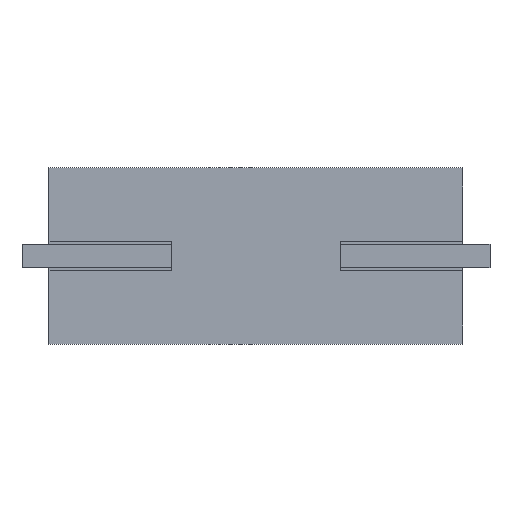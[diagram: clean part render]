
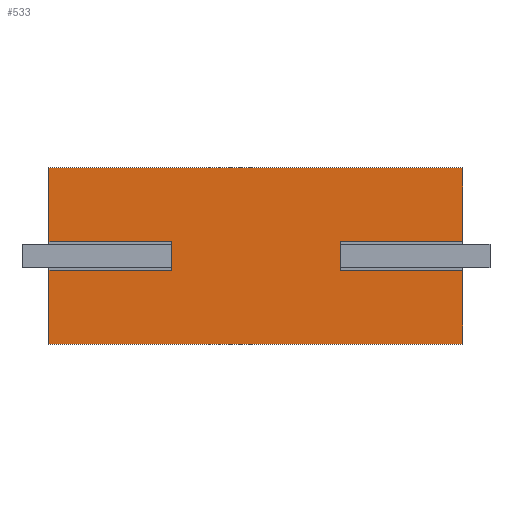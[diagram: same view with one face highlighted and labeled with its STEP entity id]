
A CAD part, front view. The second image highlights one B-rep face of the part: STEP entity #533.
In plain terms, the highlighted planar face has unit normal (0, -1, 0).
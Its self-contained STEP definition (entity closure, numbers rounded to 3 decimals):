
#378 = CARTESIAN_POINT ( 'NONE',  ( 5.75, 0., -0.4 ) ) ;
#379 = VERTEX_POINT ( 'NONE', #378 ) ;
#386 = CARTESIAN_POINT ( 'NONE',  ( 5.75, 0., -2.45 ) ) ;
#387 = VERTEX_POINT ( 'NONE', #386 ) ;
#388 = CARTESIAN_POINT ( 'NONE',  ( 5.75, 0., 2.45 ) ) ;
#389 = DIRECTION ( 'NONE',  ( 0., 0., -1. ) ) ;
#390 = VECTOR ( 'NONE', #389, 1000. ) ;
#391 = LINE ( 'NONE', #388, #390 ) ;
#392 = EDGE_CURVE ( 'NONE', #379, #387, #391, .T. ) ;
#410 = CARTESIAN_POINT ( 'NONE',  ( 5.75, 0., 2.45 ) ) ;
#411 = VERTEX_POINT ( 'NONE', #410 ) ;
#418 = CARTESIAN_POINT ( 'NONE',  ( 5.75, 0., 0.4 ) ) ;
#419 = VERTEX_POINT ( 'NONE', #418 ) ;
#420 = CARTESIAN_POINT ( 'NONE',  ( 5.75, 0., 2.45 ) ) ;
#421 = DIRECTION ( 'NONE',  ( 0., 0., -1. ) ) ;
#422 = VECTOR ( 'NONE', #421, 1000. ) ;
#423 = LINE ( 'NONE', #420, #422 ) ;
#424 = EDGE_CURVE ( 'NONE', #411, #419, #423, .T. ) ;
#448 = ORIENTED_EDGE ( 'NONE', *, *, #392, .F. ) ;
#449 = CARTESIAN_POINT ( 'NONE',  ( 2.35, 0., -0.4 ) ) ;
#450 = VERTEX_POINT ( 'NONE', #449 ) ;
#451 = CARTESIAN_POINT ( 'NONE',  ( 5.75, 0., -0.4 ) ) ;
#452 = DIRECTION ( 'NONE',  ( -1., 0., 0. ) ) ;
#453 = VECTOR ( 'NONE', #452, 1000. ) ;
#454 = LINE ( 'NONE', #451, #453 ) ;
#455 = EDGE_CURVE ( 'NONE', #379, #450, #454, .T. ) ;
#456 = ORIENTED_EDGE ( 'NONE', *, *, #455, .T. ) ;
#457 = CARTESIAN_POINT ( 'NONE',  ( 2.35, 0., 0.4 ) ) ;
#458 = VERTEX_POINT ( 'NONE', #457 ) ;
#459 = CARTESIAN_POINT ( 'NONE',  ( 2.35, 0., 0.4 ) ) ;
#460 = DIRECTION ( 'NONE',  ( 0., 0., 1. ) ) ;
#461 = VECTOR ( 'NONE', #460, 1000. ) ;
#462 = LINE ( 'NONE', #459, #461 ) ;
#463 = EDGE_CURVE ( 'NONE', #450, #458, #462, .T. ) ;
#464 = ORIENTED_EDGE ( 'NONE', *, *, #463, .T. ) ;
#465 = CARTESIAN_POINT ( 'NONE',  ( 5.75, 0., 0.4 ) ) ;
#466 = DIRECTION ( 'NONE',  ( 1., 0., 0. ) ) ;
#467 = VECTOR ( 'NONE', #466, 1000. ) ;
#468 = LINE ( 'NONE', #465, #467 ) ;
#469 = EDGE_CURVE ( 'NONE', #458, #419, #468, .T. ) ;
#470 = ORIENTED_EDGE ( 'NONE', *, *, #469, .T. ) ;
#471 = ORIENTED_EDGE ( 'NONE', *, *, #424, .F. ) ;
#472 = CARTESIAN_POINT ( 'NONE',  ( -5.75, 0., 2.45 ) ) ;
#473 = VERTEX_POINT ( 'NONE', #472 ) ;
#474 = CARTESIAN_POINT ( 'NONE',  ( -5.75, 0., 2.45 ) ) ;
#475 = DIRECTION ( 'NONE',  ( 1., 0., 0. ) ) ;
#476 = VECTOR ( 'NONE', #475, 1000. ) ;
#477 = LINE ( 'NONE', #474, #476 ) ;
#478 = EDGE_CURVE ( 'NONE', #473, #411, #477, .T. ) ;
#479 = ORIENTED_EDGE ( 'NONE', *, *, #478, .F. ) ;
#480 = CARTESIAN_POINT ( 'NONE',  ( -5.75, 0., 0.4 ) ) ;
#481 = VERTEX_POINT ( 'NONE', #480 ) ;
#482 = CARTESIAN_POINT ( 'NONE',  ( -5.75, 0., 2.45 ) ) ;
#483 = DIRECTION ( 'NONE',  ( 0., 0., 1. ) ) ;
#484 = VECTOR ( 'NONE', #483, 1000. ) ;
#485 = LINE ( 'NONE', #482, #484 ) ;
#486 = EDGE_CURVE ( 'NONE', #481, #473, #485, .T. ) ;
#487 = ORIENTED_EDGE ( 'NONE', *, *, #486, .F. ) ;
#488 = CARTESIAN_POINT ( 'NONE',  ( -2.35, 0., 0.4 ) ) ;
#489 = VERTEX_POINT ( 'NONE', #488 ) ;
#490 = CARTESIAN_POINT ( 'NONE',  ( -5.75, 0., 0.4 ) ) ;
#491 = DIRECTION ( 'NONE',  ( -1., 0., 0. ) ) ;
#492 = VECTOR ( 'NONE', #491, 1000. ) ;
#493 = LINE ( 'NONE', #490, #492 ) ;
#494 = EDGE_CURVE ( 'NONE', #489, #481, #493, .T. ) ;
#495 = ORIENTED_EDGE ( 'NONE', *, *, #494, .F. ) ;
#496 = CARTESIAN_POINT ( 'NONE',  ( -2.35, 0., -0.4 ) ) ;
#497 = VERTEX_POINT ( 'NONE', #496 ) ;
#498 = CARTESIAN_POINT ( 'NONE',  ( -2.35, 0., 0.4 ) ) ;
#499 = DIRECTION ( 'NONE',  ( 0., 0., 1. ) ) ;
#500 = VECTOR ( 'NONE', #499, 1000. ) ;
#501 = LINE ( 'NONE', #498, #500 ) ;
#502 = EDGE_CURVE ( 'NONE', #497, #489, #501, .T. ) ;
#503 = ORIENTED_EDGE ( 'NONE', *, *, #502, .F. ) ;
#504 = CARTESIAN_POINT ( 'NONE',  ( -5.75, 0., -0.4 ) ) ;
#505 = VERTEX_POINT ( 'NONE', #504 ) ;
#506 = CARTESIAN_POINT ( 'NONE',  ( -5.75, 0., -0.4 ) ) ;
#507 = DIRECTION ( 'NONE',  ( 1., 0., 0. ) ) ;
#508 = VECTOR ( 'NONE', #507, 1000. ) ;
#509 = LINE ( 'NONE', #506, #508 ) ;
#510 = EDGE_CURVE ( 'NONE', #505, #497, #509, .T. ) ;
#511 = ORIENTED_EDGE ( 'NONE', *, *, #510, .F. ) ;
#512 = CARTESIAN_POINT ( 'NONE',  ( -5.75, 0., -2.45 ) ) ;
#513 = VERTEX_POINT ( 'NONE', #512 ) ;
#514 = CARTESIAN_POINT ( 'NONE',  ( -5.75, 0., 2.45 ) ) ;
#515 = DIRECTION ( 'NONE',  ( 0., 0., 1. ) ) ;
#516 = VECTOR ( 'NONE', #515, 1000. ) ;
#517 = LINE ( 'NONE', #514, #516 ) ;
#518 = EDGE_CURVE ( 'NONE', #513, #505, #517, .T. ) ;
#519 = ORIENTED_EDGE ( 'NONE', *, *, #518, .F. ) ;
#520 = CARTESIAN_POINT ( 'NONE',  ( -5.75, 0., -2.45 ) ) ;
#521 = DIRECTION ( 'NONE',  ( -1., 0., 0. ) ) ;
#522 = VECTOR ( 'NONE', #521, 1000. ) ;
#523 = LINE ( 'NONE', #520, #522 ) ;
#524 = EDGE_CURVE ( 'NONE', #387, #513, #523, .T. ) ;
#525 = ORIENTED_EDGE ( 'NONE', *, *, #524, .F. ) ;
#526 = EDGE_LOOP ( 'NONE', ( #448, #456, #464, #470, #471, #479, #487, #495, #503, #511, #519, #525 ) ) ;
#527 = FACE_OUTER_BOUND ( 'NONE', #526, .T. ) ;
#528 = CARTESIAN_POINT ( 'NONE',  ( 0., 0., 0. ) ) ;
#529 = DIRECTION ( 'NONE',  ( 0., -1., 0. ) ) ;
#530 = DIRECTION ( 'NONE',  ( 0., 0., -1. ) ) ;
#531 = AXIS2_PLACEMENT_3D ( 'NONE', #528, #529, #530 ) ;
#532 = PLANE ( 'NONE', #531 ) ;
#533 = ADVANCED_FACE ( 'NONE', ( #527 ), #532, .T. ) ;
